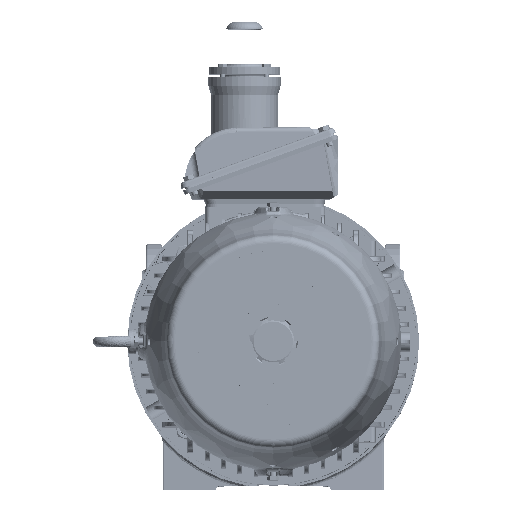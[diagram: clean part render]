
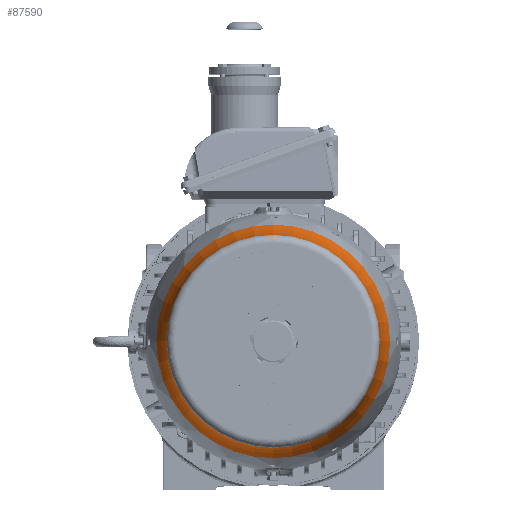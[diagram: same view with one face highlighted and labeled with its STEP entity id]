
A CAD part, top view. The second image highlights one B-rep face of the part: STEP entity #87590.
In plain terms, the highlighted toroidal (fillet/blend) face has major radius 308.616 mm and minor radius 180 mm.
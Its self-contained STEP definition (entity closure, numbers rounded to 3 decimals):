
#179=TOROIDAL_SURFACE('',#95582,308.617,180.);
#11754=FACE_OUTER_BOUND('',#16982,.T.);
#16982=EDGE_LOOP('',(#73787,#73788,#73789,#73790,#73791,#73792));
#21565=CIRCLE('',#95579,129.927);
#21566=CIRCLE('',#95580,129.927);
#21568=CIRCLE('',#95583,142.487);
#21569=CIRCLE('',#95584,142.487);
#21570=CIRCLE('',#95585,180.);
#39333=VERTEX_POINT('',#190584);
#39334=VERTEX_POINT('',#190585);
#39335=VERTEX_POINT('',#190590);
#39336=VERTEX_POINT('',#190591);
#51170=EDGE_CURVE('',#39333,#39334,#21565,.T.);
#51171=EDGE_CURVE('',#39334,#39333,#21566,.T.);
#51173=EDGE_CURVE('',#39335,#39336,#21568,.T.);
#51174=EDGE_CURVE('',#39336,#39335,#21569,.T.);
#51175=EDGE_CURVE('',#39336,#39334,#21570,.T.);
#73787=ORIENTED_EDGE('',*,*,#51173,.F.);
#73788=ORIENTED_EDGE('',*,*,#51174,.F.);
#73789=ORIENTED_EDGE('',*,*,#51175,.T.);
#73790=ORIENTED_EDGE('',*,*,#51171,.T.);
#73791=ORIENTED_EDGE('',*,*,#51170,.T.);
#73792=ORIENTED_EDGE('',*,*,#51175,.F.);
#87590=ADVANCED_FACE('',(#11754),#179,.F.);
#95579=AXIS2_PLACEMENT_3D('',#190586,#115208,#115209);
#95580=AXIS2_PLACEMENT_3D('',#190587,#115210,#115211);
#95582=AXIS2_PLACEMENT_3D('',#190589,#115214,#115215);
#95583=AXIS2_PLACEMENT_3D('',#190592,#115216,#115217);
#95584=AXIS2_PLACEMENT_3D('',#190593,#115218,#115219);
#95585=AXIS2_PLACEMENT_3D('',#190594,#115220,#115221);
#115208=DIRECTION('center_axis',(0.,0.,
-1.));
#115209=DIRECTION('ref_axis',(-1.,0.,0.));
#115210=DIRECTION('center_axis',(0.,0.,
-1.));
#115211=DIRECTION('ref_axis',(-1.,0.,0.));
#115214=DIRECTION('center_axis',(0.,0.,
-1.));
#115215=DIRECTION('ref_axis',(-1.,0.,0.));
#115216=DIRECTION('center_axis',(0.,0.,
-1.));
#115217=DIRECTION('ref_axis',(-1.,0.,0.));
#115218=DIRECTION('center_axis',(0.,0.,
-1.));
#115219=DIRECTION('ref_axis',(-1.,0.,0.));
#115220=DIRECTION('center_axis',(0.,1.,0.));
#115221=DIRECTION('ref_axis',(1.,0.,0.));
#190584=CARTESIAN_POINT('',(-129.927,0.,645.405));
#190585=CARTESIAN_POINT('',(129.927,0.,645.405));
#190586=CARTESIAN_POINT('Origin',(0.,0.,
645.405));
#190587=CARTESIAN_POINT('Origin',(0.,0.,
645.405));
#190589=CARTESIAN_POINT('Origin',(0.,0.,
667.087));
#190590=CARTESIAN_POINT('',(-142.487,0.,597.799));
#190591=CARTESIAN_POINT('',(142.487,0.,597.799));
#190592=CARTESIAN_POINT('Origin',(0.,0.,
597.799));
#190593=CARTESIAN_POINT('Origin',(0.,0.,
597.799));
#190594=CARTESIAN_POINT('Origin',(308.617,0.,
667.087));
